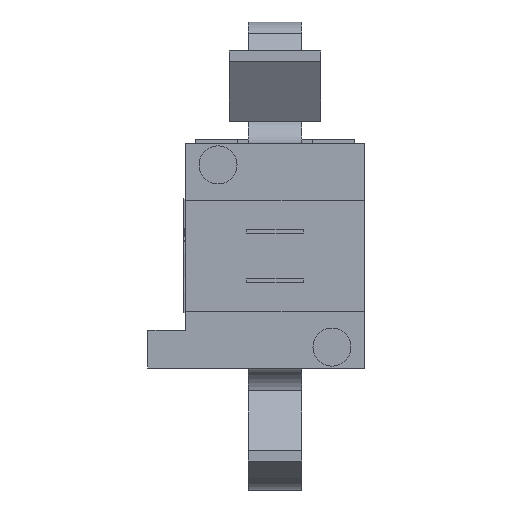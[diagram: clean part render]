
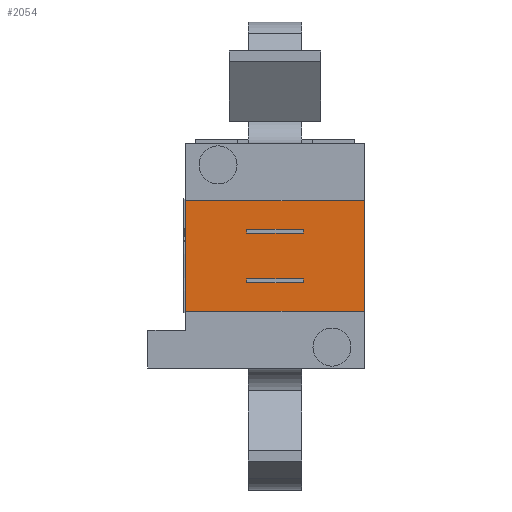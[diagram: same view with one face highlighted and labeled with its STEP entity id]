
A CAD part, left-side view. The second image highlights one B-rep face of the part: STEP entity #2054.
In plain terms, the highlighted planar face has unit normal (-1, 0, 0).
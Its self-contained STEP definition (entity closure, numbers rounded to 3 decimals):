
#249 = CARTESIAN_POINT ( 'NONE',  ( -3., -2.35, -1.45 ) ) ;
#538 = VERTEX_POINT ( 'NONE', #5698 ) ;
#782 = PLANE ( 'NONE',  #14567 ) ;
#1764 = LINE ( 'NONE', #13760, #4689 ) ;
#2032 = FACE_OUTER_BOUND ( 'NONE', #14145, .T. ) ;
#2054 = ADVANCED_FACE ( 'NONE', ( #2032 ), #782, .F. ) ;
#2108 = CARTESIAN_POINT ( 'NONE',  ( -3., 2.35, -1.45 ) ) ;
#2175 = VECTOR ( 'NONE', #2921, 1000. ) ;
#2230 = ORIENTED_EDGE ( 'NONE', *, *, #12645, .F. ) ;
#2609 = CARTESIAN_POINT ( 'NONE',  ( -3., 2.35, 1.45 ) ) ;
#2921 = DIRECTION ( 'NONE',  ( 0., -1., 0. ) ) ;
#3280 = DIRECTION ( 'NONE',  ( 1., 0., 0. ) ) ;
#3298 = CARTESIAN_POINT ( 'NONE',  ( -3., -2.35, -1.45 ) ) ;
#3364 = ORIENTED_EDGE ( 'NONE', *, *, #10195, .T. ) ;
#4160 = CARTESIAN_POINT ( 'NONE',  ( -3., 2.35, -1.45 ) ) ;
#4257 = DIRECTION ( 'NONE',  ( 0., -1., 0. ) ) ;
#4689 = VECTOR ( 'NONE', #4257, 1000. ) ;
#5698 = CARTESIAN_POINT ( 'NONE',  ( -3., 2.35, 1.45 ) ) ;
#6610 = ORIENTED_EDGE ( 'NONE', *, *, #7434, .T. ) ;
#6865 = DIRECTION ( 'NONE',  ( 0., 0., -1. ) ) ;
#7197 = VECTOR ( 'NONE', #13815, 1000. ) ;
#7434 = EDGE_CURVE ( 'NONE', #7979, #10288, #1764, .T. ) ;
#7696 = EDGE_CURVE ( 'NONE', #7979, #538, #9151, .T. ) ;
#7979 = VERTEX_POINT ( 'NONE', #14403 ) ;
#8776 = ORIENTED_EDGE ( 'NONE', *, *, #7696, .F. ) ;
#9151 = LINE ( 'NONE', #4160, #9902 ) ;
#9902 = VECTOR ( 'NONE', #12652, 1000. ) ;
#10195 = EDGE_CURVE ( 'NONE', #10288, #11850, #10240, .T. ) ;
#10240 = LINE ( 'NONE', #3298, #7197 ) ;
#10288 = VERTEX_POINT ( 'NONE', #249 ) ;
#11018 = LINE ( 'NONE', #2609, #2175 ) ;
#11367 = CARTESIAN_POINT ( 'NONE',  ( -3., -2.35, 1.45 ) ) ;
#11850 = VERTEX_POINT ( 'NONE', #11367 ) ;
#12645 = EDGE_CURVE ( 'NONE', #538, #11850, #11018, .T. ) ;
#12652 = DIRECTION ( 'NONE',  ( 0., 0., 1. ) ) ;
#13760 = CARTESIAN_POINT ( 'NONE',  ( -3., 2.35, -1.45 ) ) ;
#13815 = DIRECTION ( 'NONE',  ( 0., 0., 1. ) ) ;
#14145 = EDGE_LOOP ( 'NONE', ( #3364, #2230, #8776, #6610 ) ) ;
#14403 = CARTESIAN_POINT ( 'NONE',  ( -3., 2.35, -1.45 ) ) ;
#14567 = AXIS2_PLACEMENT_3D ( 'NONE', #2108, #3280, #6865 ) ;
